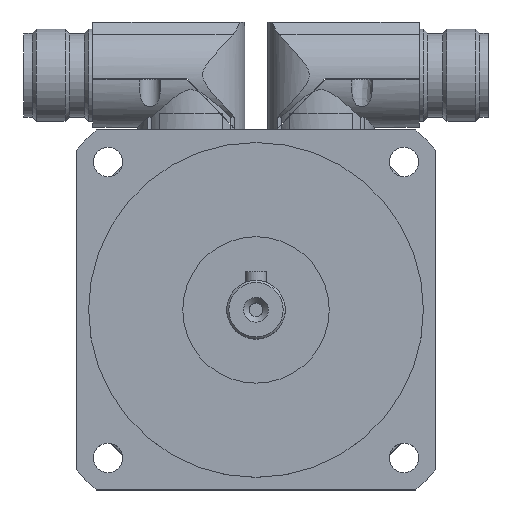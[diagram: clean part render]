
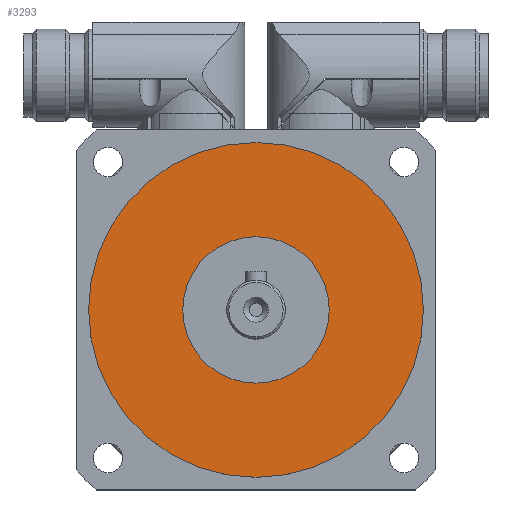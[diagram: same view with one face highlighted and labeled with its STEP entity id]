
A CAD part, top view. The second image highlights one B-rep face of the part: STEP entity #3293.
In plain terms, the highlighted planar face has unit normal (0, 0, 1).
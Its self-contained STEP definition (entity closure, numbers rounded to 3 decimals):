
#624=PLANE('',#3472);
#694=CIRCLE('',#3467,17.5);
#695=CIRCLE('',#3470,40.);
#1327=VERTEX_POINT('',#5269);
#1328=VERTEX_POINT('',#5273);
#1681=EDGE_CURVE('',#1327,#1327,#694,.T.);
#1682=EDGE_CURVE('',#1328,#1328,#695,.T.);
#2155=ORIENTED_EDGE('',*,*,#1682,.F.);
#2156=ORIENTED_EDGE('',*,*,#1681,.T.);
#2874=EDGE_LOOP('',(#2155));
#2875=EDGE_LOOP('',(#2156));
#3090=FACE_BOUND('',#2874,.T.);
#3091=FACE_BOUND('',#2875,.T.);
#3293=ADVANCED_FACE('',(#3090,#3091),#624,.F.);
#3467=AXIS2_PLACEMENT_3D('',#5268,#3862,#3863);
#3470=AXIS2_PLACEMENT_3D('',#5272,#3867,#3868);
#3472=AXIS2_PLACEMENT_3D('',#5276,#3871,$);
#3862=DIRECTION('',(0.,0.,-1.));
#3863=DIRECTION('',(-17.5,0.,0.));
#3867=DIRECTION('',(0.,0.,-1.));
#3868=DIRECTION('',(-40.,0.,0.));
#3871=DIRECTION('',(0.,0.,-1.));
#5268=CARTESIAN_POINT('',(0.,0.,177.));
#5269=CARTESIAN_POINT('',(17.5,0.,177.));
#5272=CARTESIAN_POINT('',(0.,0.,177.));
#5273=CARTESIAN_POINT('',(40.,0.,177.));
#5276=CARTESIAN_POINT('',(0.,0.,177.));
